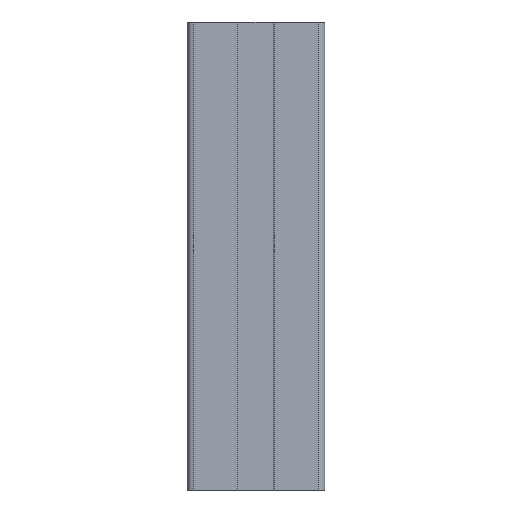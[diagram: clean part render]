
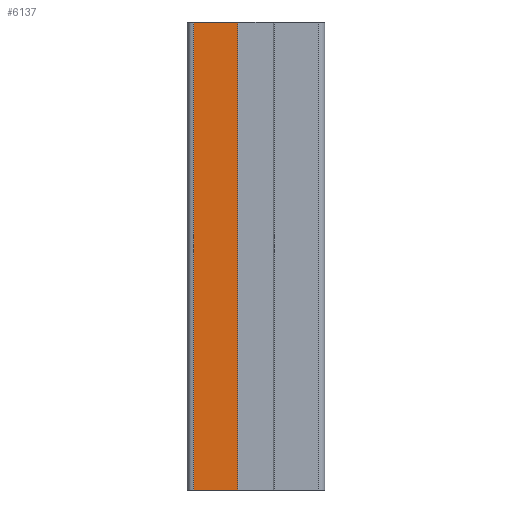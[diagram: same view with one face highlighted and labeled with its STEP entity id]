
A CAD part, left-side view. The second image highlights one B-rep face of the part: STEP entity #6137.
In plain terms, the highlighted planar face has unit normal (-1, 0, 0).
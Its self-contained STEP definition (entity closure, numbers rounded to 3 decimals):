
#89 = CARTESIAN_POINT ( 'NONE',  ( -22., 5.8, 0. ) ) ;
#139 = PLANE ( 'NONE',  #2262 ) ;
#345 = LINE ( 'NONE', #9183, #2457 ) ;
#463 = DIRECTION ( 'NONE',  ( 0., 0., 1. ) ) ;
#498 = CARTESIAN_POINT ( 'NONE',  ( -22., 5.8, -150. ) ) ;
#895 = CARTESIAN_POINT ( 'NONE',  ( -22., 5.8, -150. ) ) ;
#1068 = EDGE_CURVE ( 'NONE', #6203, #6573, #7387, .T. ) ;
#1609 = EDGE_CURVE ( 'NONE', #6203, #4732, #5588, .T. ) ;
#2262 = AXIS2_PLACEMENT_3D ( 'NONE', #895, #5822, #8679 ) ;
#2415 = ORIENTED_EDGE ( 'NONE', *, *, #7912, .T. ) ;
#2457 = VECTOR ( 'NONE', #8493, 1000. ) ;
#2716 = VECTOR ( 'NONE', #8145, 1000. ) ;
#3084 = FACE_OUTER_BOUND ( 'NONE', #8336, .T. ) ;
#3310 = EDGE_CURVE ( 'NONE', #6573, #5502, #345, .T. ) ;
#3662 = ORIENTED_EDGE ( 'NONE', *, *, #1609, .T. ) ;
#3719 = VECTOR ( 'NONE', #463, 1000. ) ;
#3873 = CARTESIAN_POINT ( 'NONE',  ( -22., 5.8, -150. ) ) ;
#4347 = CARTESIAN_POINT ( 'NONE',  ( -22., 20., 0. ) ) ;
#4732 = VERTEX_POINT ( 'NONE', #5529 ) ;
#5085 = ORIENTED_EDGE ( 'NONE', *, *, #3310, .F. ) ;
#5284 = ORIENTED_EDGE ( 'NONE', *, *, #1068, .F. ) ;
#5502 = VERTEX_POINT ( 'NONE', #4347 ) ;
#5529 = CARTESIAN_POINT ( 'NONE',  ( -22., 5.8, 0. ) ) ;
#5588 = LINE ( 'NONE', #498, #3719 ) ;
#5822 = DIRECTION ( 'NONE',  ( 1., 0., 0. ) ) ;
#6137 = ADVANCED_FACE ( 'NONE', ( #3084 ), #139, .F. ) ;
#6203 = VERTEX_POINT ( 'NONE', #8766 ) ;
#6455 = DIRECTION ( 'NONE',  ( 0., 1., 0. ) ) ;
#6573 = VERTEX_POINT ( 'NONE', #6682 ) ;
#6682 = CARTESIAN_POINT ( 'NONE',  ( -22., 20., -150. ) ) ;
#7387 = LINE ( 'NONE', #3873, #2716 ) ;
#7583 = LINE ( 'NONE', #89, #8708 ) ;
#7912 = EDGE_CURVE ( 'NONE', #4732, #5502, #7583, .T. ) ;
#8145 = DIRECTION ( 'NONE',  ( 0., 1., 0. ) ) ;
#8336 = EDGE_LOOP ( 'NONE', ( #2415, #5085, #5284, #3662 ) ) ;
#8493 = DIRECTION ( 'NONE',  ( 0., 0., 1. ) ) ;
#8679 = DIRECTION ( 'NONE',  ( 0., 0., -1. ) ) ;
#8708 = VECTOR ( 'NONE', #6455, 1000. ) ;
#8766 = CARTESIAN_POINT ( 'NONE',  ( -22., 5.8, -150. ) ) ;
#9183 = CARTESIAN_POINT ( 'NONE',  ( -22., 20., -150. ) ) ;
